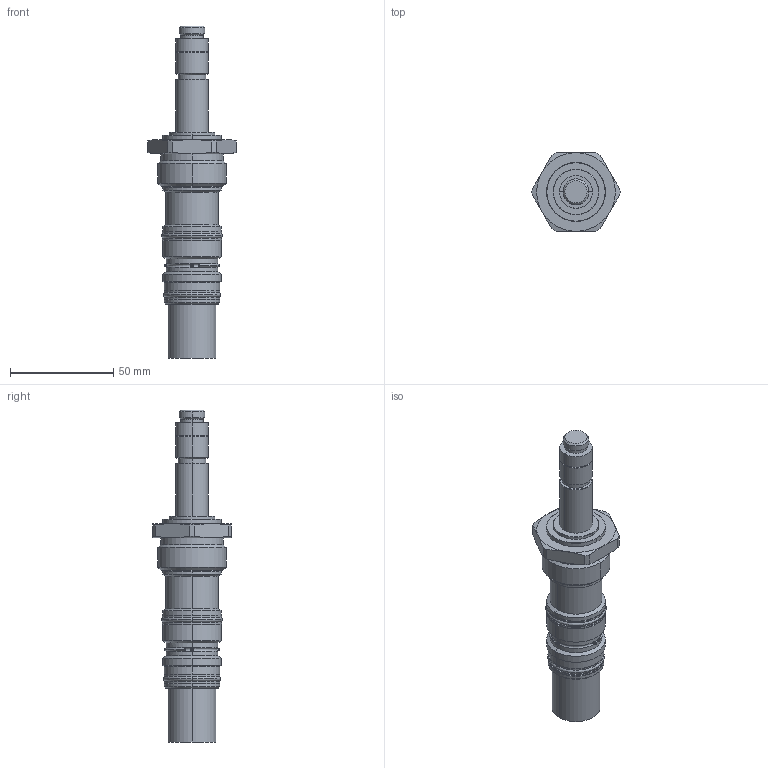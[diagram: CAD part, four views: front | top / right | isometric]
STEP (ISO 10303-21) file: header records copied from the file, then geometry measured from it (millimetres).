
FILE_DESCRIPTION((''),'2;1');
FILE_NAME('SPCL16-30','2014-04-10T',('mg1'),(''),'PRO/ENGINEER BY PARAMETRIC TECHNOLOGY CORPORATION, 2013230','PRO/ENGINEER BY PARAMETRIC TECHNOLOGY CORPORATION, 2013230','');
FILE_SCHEMA(('CONFIG_CONTROL_DESIGN'));
Length unit declared in the file: millimetre
Products named in the file (1): SPCL16-30
Bounding box: 42.66 x 38.1 x 160.77 mm (x, y, z)
Volume: 75968.2 mm3; surface area: 16855 mm2
Topology: 1 solids, 1 shells, 203 faces, 477 edges, 286 vertices
Faces by surface type: cylinder 83, cone 64, plane 26, torus 26, sphere 4
Entity records: 6175 total; most frequent: CARTESIAN_POINT 1483, DIRECTION 1034, ORIENTED_EDGE 946, EDGE_CURVE 473, AXIS2_PLACEMENT_3D 448, VERTEX_POINT 286, CIRCLE 245, EDGE_LOOP 221
